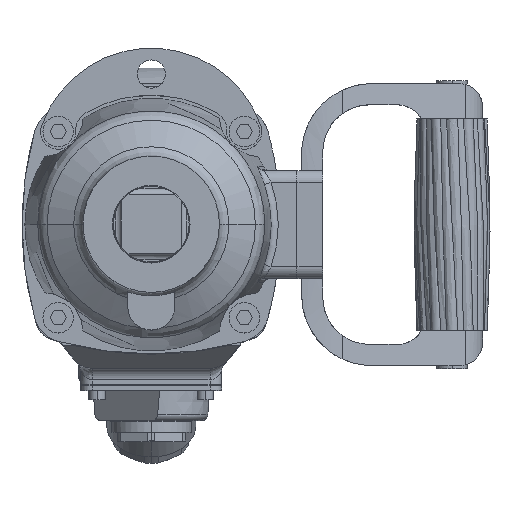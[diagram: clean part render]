
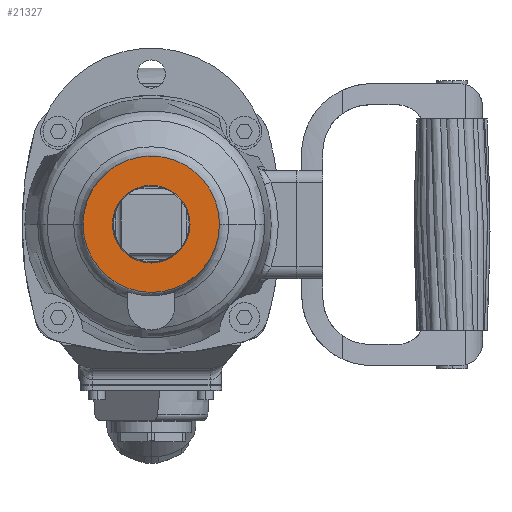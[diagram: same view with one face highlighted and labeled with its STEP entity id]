
A CAD part, top view. The second image highlights one B-rep face of the part: STEP entity #21327.
In plain terms, the highlighted planar face has unit normal (0, 0, 1).
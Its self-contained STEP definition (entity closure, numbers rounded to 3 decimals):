
#20606 = VERTEX_POINT ( 'NONE', #46466 ) ;
#20607 = VERTEX_POINT ( 'NONE', #46465 ) ;
#20665 = EDGE_CURVE ( 'NONE', #20606, #20607, #46552, .T. ) ;
#20740 = VERTEX_POINT ( 'NONE', #46743 ) ;
#20742 = EDGE_CURVE ( 'NONE', #20799, #20740, #46742, .T. ) ;
#20799 = VERTEX_POINT ( 'NONE', #46930 ) ;
#20922 = ORIENTED_EDGE ( 'NONE', *, *, #21390, .T. ) ;
#21327 = ADVANCED_FACE ( 'NONE', ( #48410, #48409 ), #48408, .F. ) ;
#21328 = EDGE_LOOP ( 'NONE', ( #21329, #20922 ) ) ;
#21329 = ORIENTED_EDGE ( 'NONE', *, *, #20742, .T. ) ;
#21390 = EDGE_CURVE ( 'NONE', #20740, #20799, #48609, .T. ) ;
#21391 = EDGE_LOOP ( 'NONE', ( #21392, #21394 ) ) ;
#21392 = ORIENTED_EDGE ( 'NONE', *, *, #21393, .F. ) ;
#21393 = EDGE_CURVE ( 'NONE', #20607, #20606, #48602, .T. ) ;
#21394 = ORIENTED_EDGE ( 'NONE', *, *, #20665, .F. ) ;
#46465 = CARTESIAN_POINT ( 'NONE',  ( 16.5, 0., 0. ) ) ;
#46466 = CARTESIAN_POINT ( 'NONE',  ( -16.5, 0., 0. ) ) ;
#46548 = DIRECTION ( 'NONE',  ( 1., 0., 0. ) ) ;
#46549 = DIRECTION ( 'NONE',  ( 0., 0., 1. ) ) ;
#46550 = CARTESIAN_POINT ( 'NONE',  ( 0., 0., 0. ) ) ;
#46551 = AXIS2_PLACEMENT_3D ( 'NONE', #46550, #46549, #46548 ) ;
#46552 = CIRCLE ( 'NONE', #46551, 16.5 ) ;
#46738 = DIRECTION ( 'NONE',  ( 1., 0., 0. ) ) ;
#46739 = DIRECTION ( 'NONE',  ( 0., 0., 1. ) ) ;
#46740 = CARTESIAN_POINT ( 'NONE',  ( 0., 0., 0. ) ) ;
#46741 = AXIS2_PLACEMENT_3D ( 'NONE', #46740, #46739, #46738 ) ;
#46742 = CIRCLE ( 'NONE', #46741, 29. ) ;
#46743 = CARTESIAN_POINT ( 'NONE',  ( -29., 0., 0. ) ) ;
#46930 = CARTESIAN_POINT ( 'NONE',  ( 29., 0., 0. ) ) ;
#48404 = DIRECTION ( 'NONE',  ( -1., 0., 0. ) ) ;
#48405 = DIRECTION ( 'NONE',  ( 0., 0., -1. ) ) ;
#48406 = CARTESIAN_POINT ( 'NONE',  ( 0., 0., 0. ) ) ;
#48407 = AXIS2_PLACEMENT_3D ( 'NONE', #48406, #48405, #48404 ) ;
#48408 = PLANE ( 'NONE',  #48407 ) ;
#48409 = FACE_BOUND ( 'NONE', #21391, .T. ) ;
#48410 = FACE_OUTER_BOUND ( 'NONE', #21328, .T. ) ;
#48598 = DIRECTION ( 'NONE',  ( 1., 0., 0. ) ) ;
#48599 = DIRECTION ( 'NONE',  ( 0., 0., 1. ) ) ;
#48600 = CARTESIAN_POINT ( 'NONE',  ( 0., 0., 0. ) ) ;
#48601 = AXIS2_PLACEMENT_3D ( 'NONE', #48600, #48599, #48598 ) ;
#48602 = CIRCLE ( 'NONE', #48601, 16.5 ) ;
#48603 = DIRECTION ( 'NONE',  ( 1., 0., 0. ) ) ;
#48605 = DIRECTION ( 'NONE',  ( 0., 0., 1. ) ) ;
#48606 = CARTESIAN_POINT ( 'NONE',  ( 0., 0., 0. ) ) ;
#48608 = AXIS2_PLACEMENT_3D ( 'NONE', #48606, #48605, #48603 ) ;
#48609 = CIRCLE ( 'NONE', #48608, 29. ) ;
